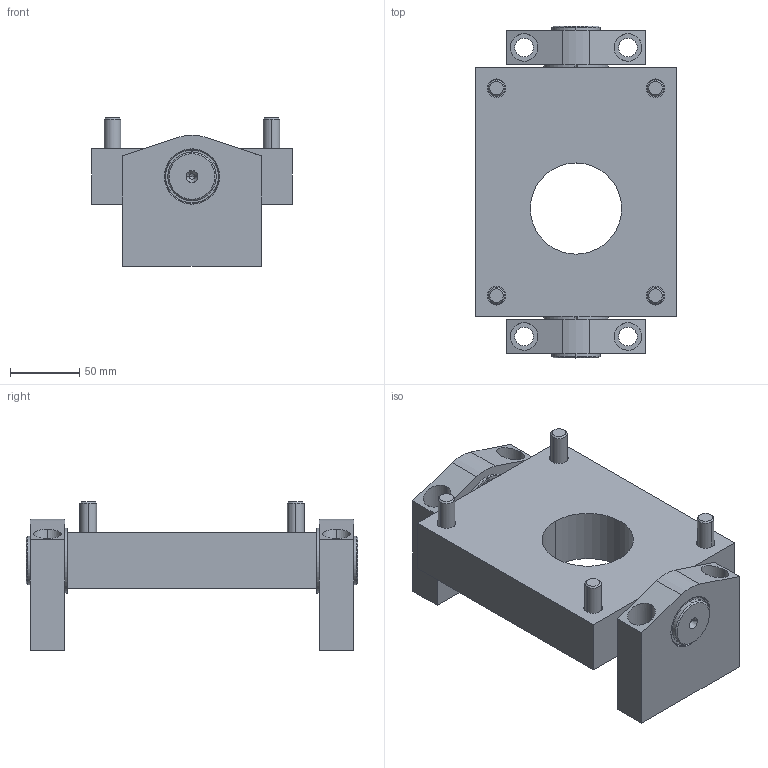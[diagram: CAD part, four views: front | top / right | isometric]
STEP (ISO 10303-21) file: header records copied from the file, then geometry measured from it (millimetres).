
FILE_DESCRIPTION (( 'STEP AP203' ), '1' );
FILE_NAME ('MJ4-KP(Z1)-SFK.STEP', '2024-01-16T10:12:04', ( '' ), ( '' ), 'SwSTEP 2.0', 'SolidWorks 2022', '' );
FILE_SCHEMA (( 'CONFIG_CONTROL_DESIGN' ));
Length unit declared in the file: millimetre
Products named in the file (1): MJ4-KP(Z1)-SFK
Bounding box: 145 x 240 x 107.6 mm (x, y, z)
Volume: 1287824.8 mm3; surface area: 191095.8 mm2
Topology: 9 solids, 9 shells, 220 faces, 530 edges, 336 vertices
Faces by surface type: plane 80, cylinder 76, cone 40, torus 24
Entity records: 6593 total; most frequent: CARTESIAN_POINT 1321, DIRECTION 1152, ORIENTED_EDGE 1036, EDGE_CURVE 518, AXIS2_PLACEMENT_3D 461, VERTEX_POINT 336, EDGE_LOOP 262, CIRCLE 240
